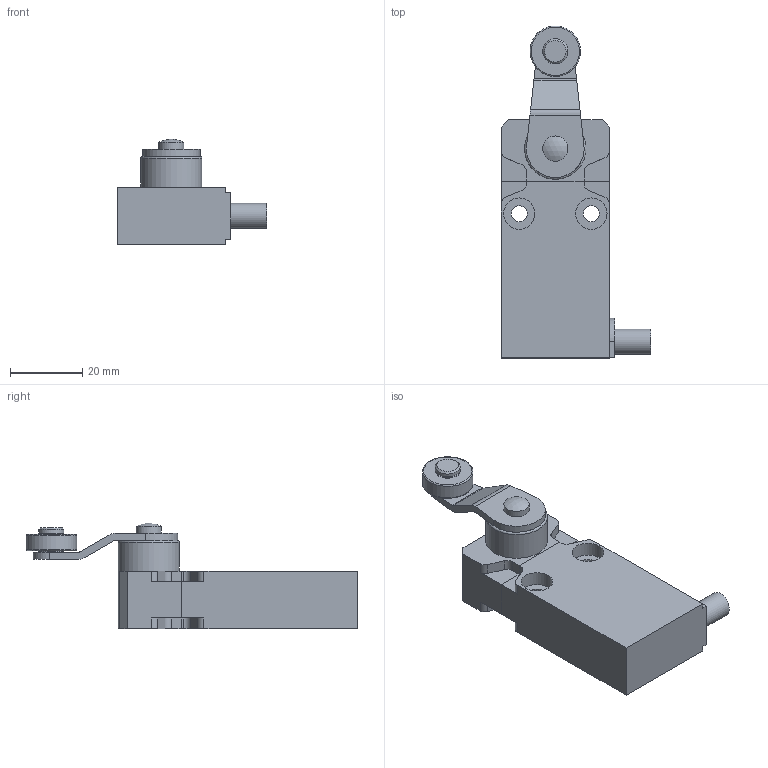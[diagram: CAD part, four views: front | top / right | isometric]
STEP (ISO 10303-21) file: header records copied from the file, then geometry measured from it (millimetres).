
FILE_DESCRIPTION(/* description */ (''),/* implementation_level */ '2;1');
FILE_NAME(/* name */ 'C:\Users\servizio.tecnico\Desktop\CADENAS\3D\EP1_STP\STP_EP1_G42U.stp',/* time_stamp */ '2017-09-01T08:31:19+02:00',/* author */ ('servizio.tecnico'),/* organization */ (''),/* preprocessor_version */ 'ST-DEVELOPER v16.1',/* originating_system */ 'Autodesk Inventor 2016',/* authorisation */ '');
FILE_SCHEMA (('AUTOMOTIVE_DESIGN { 1 0 10303 214 3 1 1 }'));
Length unit declared in the file: millimetre
Products named in the file (3): Product; EP1G42; BASE ASSI 
Assembly tree (2 placements, depth 3):
  BASE ASSI 
    EP1G42
      Product
Bounding box: 41.5 x 92 x 29.28 mm (x, y, z)
Volume: 33473.6 mm3; surface area: 11270.3 mm2
Topology: 4 solids, 4 shells, 115 faces, 285 edges, 190 vertices
Faces by surface type: plane 68, cylinder 42, torus 3, cone 1, sphere 1
Full cylindrical faces by diameter (mm): 4.4 x2, 5 x2, 7 x5, 8.7 x4, 14 x1, 17 x1
Entity records: 3415 total; most frequent: DIRECTION 590, CARTESIAN_POINT 566, ORIENTED_EDGE 522, EDGE_CURVE 261, AXIS2_PLACEMENT_3D 209, VERTEX_POINT 185, LINE 172, VECTOR 172
